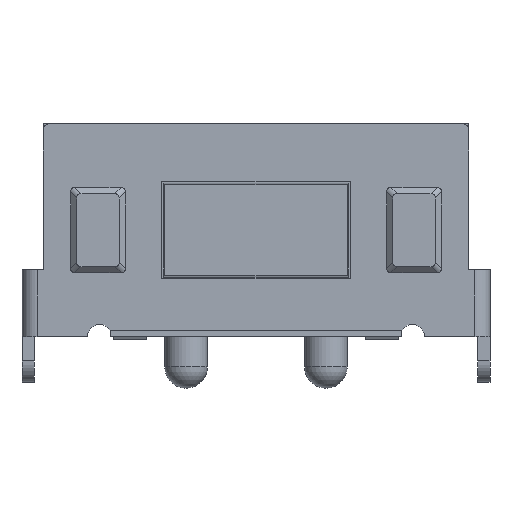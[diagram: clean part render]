
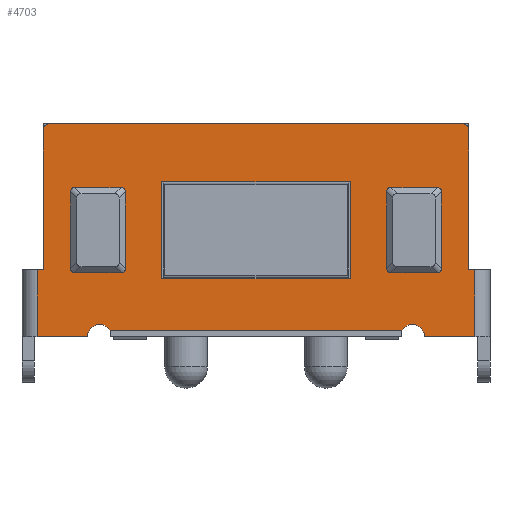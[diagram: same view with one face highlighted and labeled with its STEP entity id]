
A CAD part, front view. The second image highlights one B-rep face of the part: STEP entity #4703.
In plain terms, the highlighted planar face has unit normal (0, -1, 0).
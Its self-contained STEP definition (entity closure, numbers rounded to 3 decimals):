
#3864=DIRECTION('',(0.,0.,-1.));
#3865=VECTOR('',#3864,1.6);
#3866=CARTESIAN_POINT('',(1.55,-0.2,0.8));
#3867=LINE('',#3866,#3865);
#3868=DIRECTION('',(1.,0.,0.));
#3869=VECTOR('',#3868,3.1);
#3870=CARTESIAN_POINT('',(-1.55,-0.2,0.8));
#3871=LINE('',#3870,#3869);
#3872=DIRECTION('',(0.,0.,1.));
#3873=VECTOR('',#3872,1.6);
#3874=CARTESIAN_POINT('',(-1.55,-0.2,-0.8));
#3875=LINE('',#3874,#3873);
#3876=DIRECTION('',(-1.,0.,0.));
#3877=VECTOR('',#3876,3.1);
#3878=CARTESIAN_POINT('',(1.55,-0.2,-0.8));
#3879=LINE('',#3878,#3877);
#3880=DIRECTION('',(0.,0.,-1.));
#3881=VECTOR('',#3880,1.);
#3882=CARTESIAN_POINT('',(-2.35,-0.2,0.5));
#3883=LINE('',#3882,#3881);
#3884=DIRECTION('',(1.,0.,0.));
#3885=VECTOR('',#3884,0.5);
#3886=CARTESIAN_POINT('',(-2.85,-0.2,0.5));
#3887=LINE('',#3886,#3885);
#3888=DIRECTION('',(0.,0.,1.));
#3889=VECTOR('',#3888,1.);
#3890=CARTESIAN_POINT('',(-2.85,-0.2,-0.5));
#3891=LINE('',#3890,#3889);
#3892=DIRECTION('',(-1.,0.,0.));
#3893=VECTOR('',#3892,0.5);
#3894=CARTESIAN_POINT('',(-2.35,-0.2,-0.5));
#3895=LINE('',#3894,#3893);
#3896=DIRECTION('',(-1.,0.,0.));
#3897=VECTOR('',#3896,0.5);
#3898=CARTESIAN_POINT('',(2.85,-0.2,-0.5));
#3899=LINE('',#3898,#3897);
#3900=DIRECTION('',(0.,0.,-1.));
#3901=VECTOR('',#3900,1.);
#3902=CARTESIAN_POINT('',(2.85,-0.2,0.5));
#3903=LINE('',#3902,#3901);
#3904=DIRECTION('',(1.,0.,0.));
#3905=VECTOR('',#3904,0.5);
#3906=CARTESIAN_POINT('',(2.35,-0.2,0.5));
#3907=LINE('',#3906,#3905);
#3908=DIRECTION('',(0.,0.,1.));
#3909=VECTOR('',#3908,1.);
#3910=CARTESIAN_POINT('',(2.35,-0.2,-0.5));
#3911=LINE('',#3910,#3909);
#3912=DIRECTION('',(0.,0.,-1.));
#3913=VECTOR('',#3912,2.3);
#3914=CARTESIAN_POINT('',(-3.5,-0.2,1.65));
#3915=LINE('',#3914,#3913);
#3916=CARTESIAN_POINT('',(-3.4,-0.2,1.65));
#3917=DIRECTION('',(0.,-1.,0.));
#3918=DIRECTION('',(0.,0.,1.));
#3919=AXIS2_PLACEMENT_3D('',#3916,#3917,#3918);
#3921=DIRECTION('',(-1.,0.,0.));
#3922=VECTOR('',#3921,6.8);
#3923=CARTESIAN_POINT('',(3.4,-0.2,1.75));
#3924=LINE('',#3923,#3922);
#3925=CARTESIAN_POINT('',(3.4,-0.2,1.65));
#3926=DIRECTION('',(0.,-1.,0.));
#3927=DIRECTION('',(1.,0.,0.));
#3928=AXIS2_PLACEMENT_3D('',#3925,#3926,#3927);
#3930=DIRECTION('',(0.,0.,1.));
#3931=VECTOR('',#3930,2.3);
#3932=CARTESIAN_POINT('',(3.5,-0.2,-0.65));
#3933=LINE('',#3932,#3931);
#3934=DIRECTION('',(1.,0.,0.));
#3935=VECTOR('',#3934,0.1);
#3936=CARTESIAN_POINT('',(3.5,-0.2,-0.65));
#3937=LINE('',#3936,#3935);
#3938=CARTESIAN_POINT('',(2.573,-0.2,-1.75));
#3939=DIRECTION('',(0.,-1.,0.));
#3940=DIRECTION('',(1.,0.,0.));
#3941=AXIS2_PLACEMENT_3D('',#3938,#3939,#3940);
#3943=DIRECTION('',(1.,0.,0.));
#3944=VECTOR('',#3943,4.8);
#3945=CARTESIAN_POINT('',(-2.4,-0.2,-1.65));
#3946=LINE('',#3945,#3944);
#3947=CARTESIAN_POINT('',(-2.573,-0.2,-1.75));
#3948=DIRECTION('',(0.,-1.,0.));
#3949=DIRECTION('',(0.866,0.,0.5));
#3950=AXIS2_PLACEMENT_3D('',#3947,#3948,#3949);
#3952=DIRECTION('',(1.,0.,0.));
#3953=VECTOR('',#3952,0.1);
#3954=CARTESIAN_POINT('',(-3.6,-0.2,-0.65));
#3955=LINE('',#3954,#3953);
#4013=DIRECTION('',(0.,0.,1.));
#4014=VECTOR('',#4013,1.1);
#4015=CARTESIAN_POINT('',(-3.6,-0.2,-1.75));
#4016=LINE('',#4015,#4014);
#4128=DIRECTION('',(1.,0.,0.));
#4129=VECTOR('',#4128,0.827);
#4130=CARTESIAN_POINT('',(2.773,-0.2,-1.75));
#4131=LINE('',#4130,#4129);
#4144=DIRECTION('',(1.,0.,0.));
#4145=VECTOR('',#4144,0.827);
#4146=CARTESIAN_POINT('',(-3.6,-0.2,-1.75));
#4147=LINE('',#4146,#4145);
#4173=DIRECTION('',(0.,0.,-1.));
#4174=VECTOR('',#4173,1.1);
#4175=CARTESIAN_POINT('',(3.6,-0.2,-0.65));
#4176=LINE('',#4175,#4174);
#4368=CARTESIAN_POINT('',(1.55,-0.2,0.8));
#4369=CARTESIAN_POINT('',(1.55,-0.2,-0.8));
#4370=VERTEX_POINT('',#4368);
#4371=VERTEX_POINT('',#4369);
#4372=CARTESIAN_POINT('',(-1.55,-0.2,0.8));
#4373=VERTEX_POINT('',#4372);
#4374=CARTESIAN_POINT('',(-1.55,-0.2,-0.8));
#4375=VERTEX_POINT('',#4374);
#4376=CARTESIAN_POINT('',(-2.35,-0.2,0.5));
#4377=CARTESIAN_POINT('',(-2.35,-0.2,-0.5));
#4378=VERTEX_POINT('',#4376);
#4379=VERTEX_POINT('',#4377);
#4380=CARTESIAN_POINT('',(-2.85,-0.2,0.5));
#4381=VERTEX_POINT('',#4380);
#4382=CARTESIAN_POINT('',(-2.85,-0.2,-0.5));
#4383=VERTEX_POINT('',#4382);
#4384=CARTESIAN_POINT('',(2.85,-0.2,-0.5));
#4385=CARTESIAN_POINT('',(2.35,-0.2,-0.5));
#4386=VERTEX_POINT('',#4384);
#4387=VERTEX_POINT('',#4385);
#4388=CARTESIAN_POINT('',(2.85,-0.2,0.5));
#4389=VERTEX_POINT('',#4388);
#4390=CARTESIAN_POINT('',(2.35,-0.2,0.5));
#4391=VERTEX_POINT('',#4390);
#4404=CARTESIAN_POINT('',(-3.5,-0.2,-0.65));
#4406=VERTEX_POINT('',#4404);
#4410=CARTESIAN_POINT('',(-3.6,-0.2,-0.65));
#4411=VERTEX_POINT('',#4410);
#4412=CARTESIAN_POINT('',(-3.6,-0.2,-1.75));
#4413=VERTEX_POINT('',#4412);
#4420=CARTESIAN_POINT('',(3.5,-0.2,-0.65));
#4422=VERTEX_POINT('',#4420);
#4426=CARTESIAN_POINT('',(3.6,-0.2,-1.75));
#4427=VERTEX_POINT('',#4426);
#4428=CARTESIAN_POINT('',(3.6,-0.2,-0.65));
#4429=VERTEX_POINT('',#4428);
#4448=CARTESIAN_POINT('',(-2.4,-0.2,-1.65));
#4449=CARTESIAN_POINT('',(-2.773,-0.2,-1.75));
#4450=VERTEX_POINT('',#4448);
#4451=VERTEX_POINT('',#4449);
#4452=CARTESIAN_POINT('',(2.4,-0.2,-1.65));
#4453=VERTEX_POINT('',#4452);
#4454=CARTESIAN_POINT('',(2.773,-0.2,-1.75));
#4455=VERTEX_POINT('',#4454);
#4456=CARTESIAN_POINT('',(-3.5,-0.2,1.65));
#4457=VERTEX_POINT('',#4456);
#4460=CARTESIAN_POINT('',(3.5,-0.2,1.65));
#4461=VERTEX_POINT('',#4460);
#4506=CARTESIAN_POINT('',(-3.4,-0.2,1.75));
#4507=VERTEX_POINT('',#4506);
#4510=CARTESIAN_POINT('',(3.4,-0.2,1.75));
#4511=VERTEX_POINT('',#4510);
#4642=CARTESIAN_POINT('',(0.,-0.2,0.));
#4643=DIRECTION('',(0.,1.,0.));
#4644=DIRECTION('',(1.,0.,0.));
#4645=AXIS2_PLACEMENT_3D('',#4642,#4643,#4644);
#4646=PLANE('',#4645);
#4648=ORIENTED_EDGE('',*,*,#4647,.F.);
#4650=ORIENTED_EDGE('',*,*,#4649,.F.);
#4652=ORIENTED_EDGE('',*,*,#4651,.F.);
#4654=ORIENTED_EDGE('',*,*,#4653,.F.);
#4656=ORIENTED_EDGE('',*,*,#4655,.F.);
#4658=ORIENTED_EDGE('',*,*,#4657,.T.);
#4660=ORIENTED_EDGE('',*,*,#4659,.T.);
#4662=ORIENTED_EDGE('',*,*,#4661,.F.);
#4664=ORIENTED_EDGE('',*,*,#4663,.T.);
#4666=ORIENTED_EDGE('',*,*,#4665,.F.);
#4668=ORIENTED_EDGE('',*,*,#4667,.T.);
#4670=ORIENTED_EDGE('',*,*,#4669,.F.);
#4672=ORIENTED_EDGE('',*,*,#4671,.T.);
#4674=ORIENTED_EDGE('',*,*,#4673,.T.);
#4675=EDGE_LOOP('',(#4648,#4650,#4652,#4654,#4656,#4658,#4660,#4662,#4664,#4666,
#4668,#4670,#4672,#4674));
#4676=FACE_OUTER_BOUND('',#4675,.F.);
#4678=ORIENTED_EDGE('',*,*,#4677,.F.);
#4680=ORIENTED_EDGE('',*,*,#4679,.F.);
#4682=ORIENTED_EDGE('',*,*,#4681,.F.);
#4684=ORIENTED_EDGE('',*,*,#4683,.F.);
#4685=EDGE_LOOP('',(#4678,#4680,#4682,#4684));
#4686=FACE_BOUND('',#4685,.F.);
#4688=ORIENTED_EDGE('',*,*,#4687,.F.);
#4690=ORIENTED_EDGE('',*,*,#4689,.F.);
#4692=ORIENTED_EDGE('',*,*,#4691,.F.);
#4694=ORIENTED_EDGE('',*,*,#4693,.F.);
#4695=EDGE_LOOP('',(#4688,#4690,#4692,#4694));
#4696=FACE_BOUND('',#4695,.F.);
#4697=ORIENTED_EDGE('',*,*,#4594,.F.);
#4698=ORIENTED_EDGE('',*,*,#4609,.F.);
#4699=ORIENTED_EDGE('',*,*,#4623,.F.);
#4700=ORIENTED_EDGE('',*,*,#4636,.F.);
#4701=EDGE_LOOP('',(#4697,#4698,#4699,#4700));
#4702=FACE_BOUND('',#4701,.F.);
#3920=CIRCLE('',#3919,0.1);
#3929=CIRCLE('',#3928,0.1);
#3942=CIRCLE('',#3941,0.2);
#3951=CIRCLE('',#3950,0.2);
#4594=EDGE_CURVE('',#4370,#4371,#3867,.T.);
#4609=EDGE_CURVE('',#4373,#4370,#3871,.T.);
#4623=EDGE_CURVE('',#4375,#4373,#3875,.T.);
#4636=EDGE_CURVE('',#4371,#4375,#3879,.T.);
#4647=EDGE_CURVE('',#4457,#4406,#3915,.T.);
#4649=EDGE_CURVE('',#4507,#4457,#3920,.T.);
#4651=EDGE_CURVE('',#4511,#4507,#3924,.T.);
#4653=EDGE_CURVE('',#4461,#4511,#3929,.T.);
#4655=EDGE_CURVE('',#4422,#4461,#3933,.T.);
#4657=EDGE_CURVE('',#4422,#4429,#3937,.T.);
#4659=EDGE_CURVE('',#4429,#4427,#4176,.T.);
#4661=EDGE_CURVE('',#4455,#4427,#4131,.T.);
#4663=EDGE_CURVE('',#4455,#4453,#3942,.T.);
#4665=EDGE_CURVE('',#4450,#4453,#3946,.T.);
#4667=EDGE_CURVE('',#4450,#4451,#3951,.T.);
#4669=EDGE_CURVE('',#4413,#4451,#4147,.T.);
#4671=EDGE_CURVE('',#4413,#4411,#4016,.T.);
#4673=EDGE_CURVE('',#4411,#4406,#3955,.T.);
#4677=EDGE_CURVE('',#4378,#4379,#3883,.T.);
#4679=EDGE_CURVE('',#4381,#4378,#3887,.T.);
#4681=EDGE_CURVE('',#4383,#4381,#3891,.T.);
#4683=EDGE_CURVE('',#4379,#4383,#3895,.T.);
#4687=EDGE_CURVE('',#4386,#4387,#3899,.T.);
#4689=EDGE_CURVE('',#4389,#4386,#3903,.T.);
#4691=EDGE_CURVE('',#4391,#4389,#3907,.T.);
#4693=EDGE_CURVE('',#4387,#4391,#3911,.T.);
#4703=ADVANCED_FACE('',(#4676,#4686,#4696,#4702),#4646,.F.);
